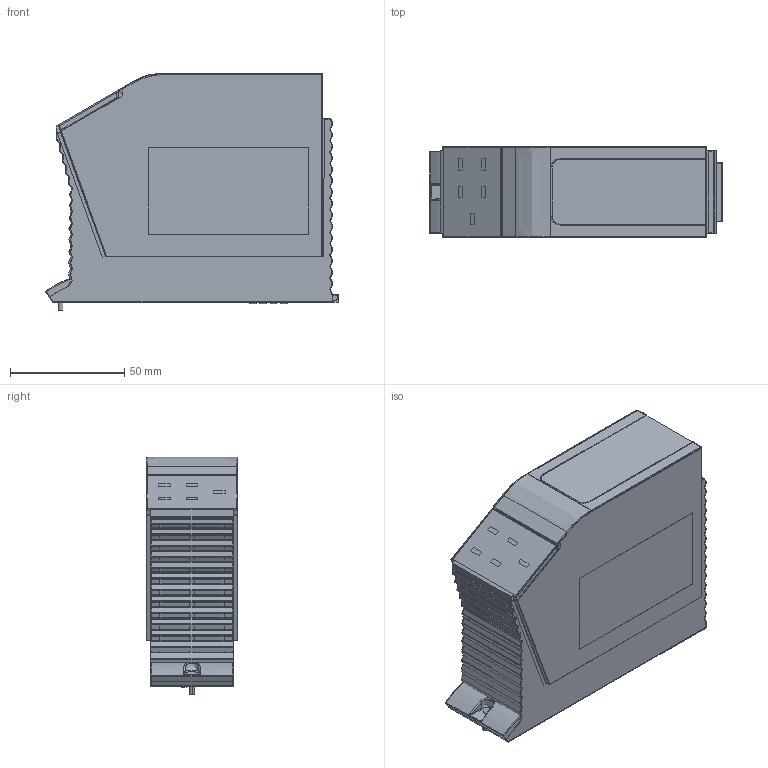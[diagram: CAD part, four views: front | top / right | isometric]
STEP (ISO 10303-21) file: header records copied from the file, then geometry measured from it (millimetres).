
FILE_DESCRIPTION((''),'2;1');
FILE_NAME('PRT0004','2011-03-03T',('Vincent_Huang'),(''),'PRO/ENGINEER BY PARAMETRIC TECHNOLOGY CORPORATION, 2004320','PRO/ENGINEER BY PARAMETRIC TECHNOLOGY CORPORATION, 2004320','');
FILE_SCHEMA(('CONFIG_CONTROL_DESIGN'));
Products named in the file (1): PRT0004
Bounding box: 127.8 x 40 x 103.83 mm (x, y, z)
Volume: 144951.6 mm3; surface area: 237147.1 mm2
Topology: 8 solids, 19 shells, 3073 faces, 8369 edges, 5396 vertices
Faces by surface type: plane 2278, cylinder 562, torus 133, bspline 36, cone 35, sphere 16, extrusion 11, revolution 2
Entity records: 97883 total; most frequent: CARTESIAN_POINT 18948, ORIENTED_EDGE 16631, DIRECTION 15705, EDGE_CURVE 8361, VECTOR 6787, LINE 6776, VERTEX_POINT 5394, AXIS2_PLACEMENT_3D 4458
